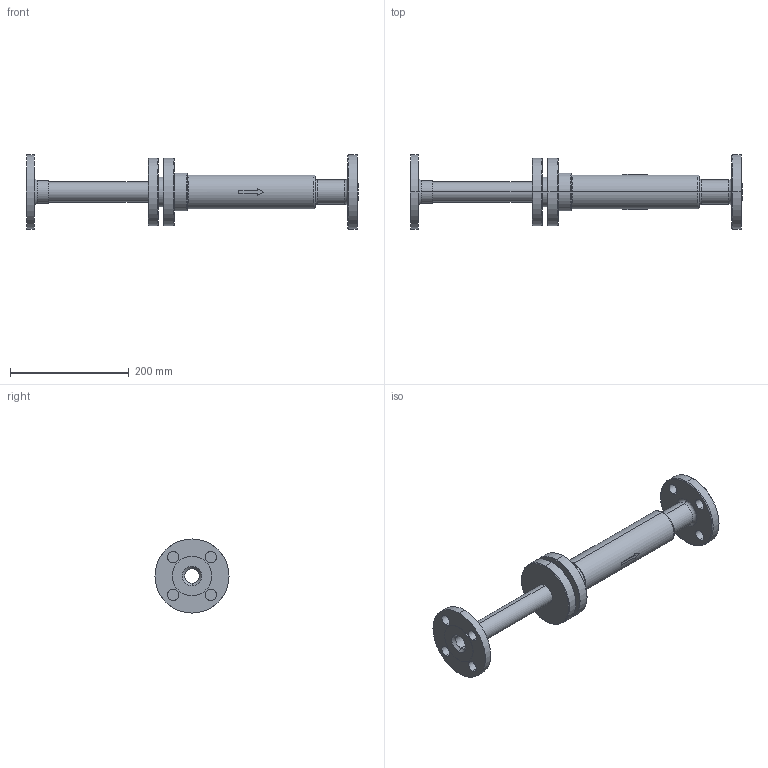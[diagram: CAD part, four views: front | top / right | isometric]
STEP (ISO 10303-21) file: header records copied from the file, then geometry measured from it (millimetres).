
FILE_DESCRIPTION( (''), '2;1');
FILE_NAME ('PC1027.9516.ES-10-200 25A_12091.stp','2025-07-30T13:23:26',(''),(''),'spGate 20.6.3 (****-****-****-****)','','');
FILE_SCHEMA (('AUTOMOTIVE_DESIGN'));
Length unit declared in the file: millimetre
Bounding box: 560 x 125 x 125 mm (x, y, z)
Volume: 1297547.5 mm3; surface area: 222113.9 mm2
Topology: 1 solids, 1 shells, 104 faces, 238 edges, 150 vertices
Faces by surface type: cylinder 42, bspline 32, plane 30
Entity records: 5275 total; most frequent: CARTESIAN_POINT 1092, ORIENTED_EDGE 476, DIRECTION 432, COLOUR_RGB 343, PRESENTATION_STYLE_ASSIGNMENT 343, STYLED_ITEM 343, EDGE_CURVE 238, DRAUGHTING_PRE_DEFINED_CURVE_FONT 238
